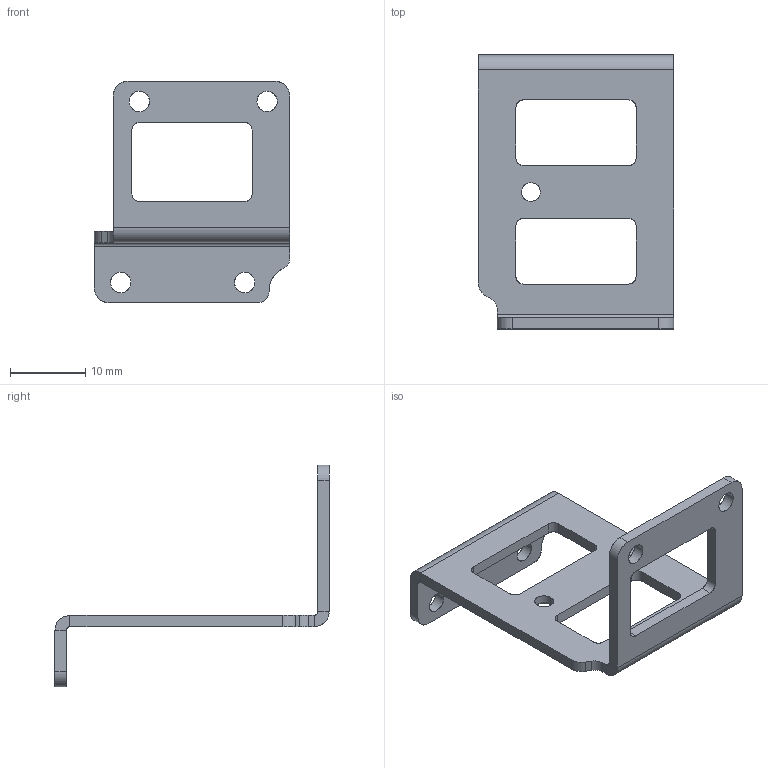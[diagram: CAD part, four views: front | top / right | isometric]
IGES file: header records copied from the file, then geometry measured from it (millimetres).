
Global section: file name: C:\Users\Knabe\Documents\Classes\8 Semester 8\DARwIn\Deliverables\DARwIn OP\DARwIn OP Part Files\OP 3D CAD Files\3D IGS\9R_PR13_B_BRKT_PELV_R.igs; native system: NX V7.0; preprocessor: SIEMENS PLM Software NX 7.0; date: 20110525.180259; units: millimetre
Bounding box: 26 x 36.5 x 29.5 mm (x, y, z)
Surface area: 2744.2 mm2 (no closed solid volume)
Topology: 0 solids, 0 shells, 69 faces, 464 edges, 464 vertices
Faces by surface type: bspline 69
